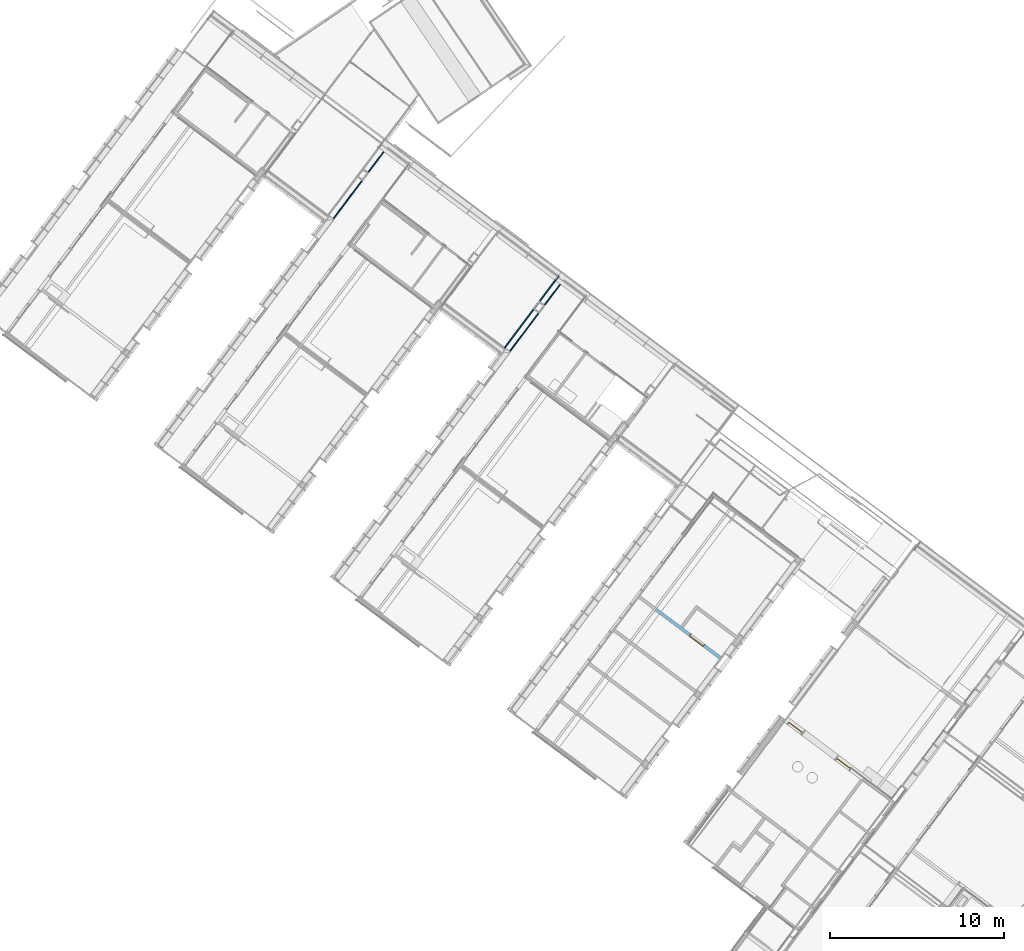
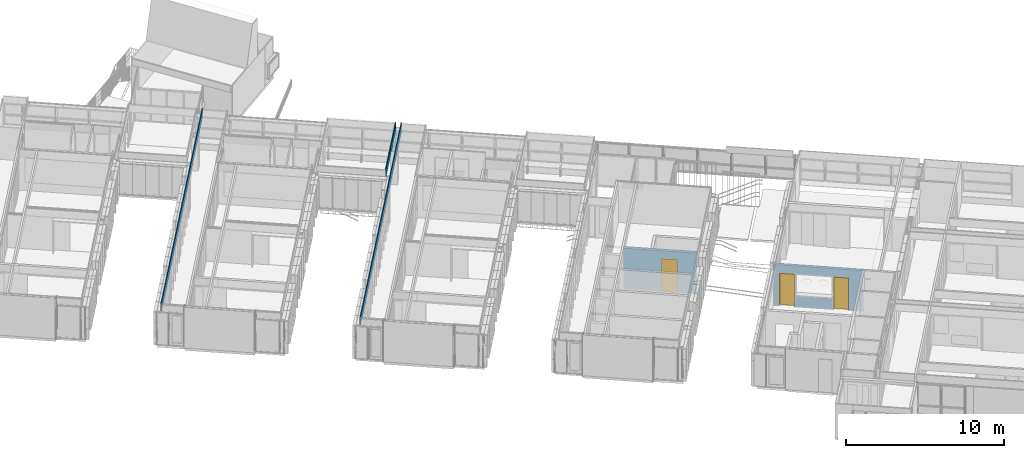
# One storey, part 137 of 243: 3 doors, 3 walls, 4 openings, plus 2 elements that do not belong to this part.
"""IFC2X3 building model written with IfcOpenShell, lengths in metres."""

from ifc_helpers import new_model, entity, si_unit, converted_unit, derived_unit, direction, frame, frame_2d, origin, origin_2d_with_axis, place, context, subcontext, project, spatial, rectangle, extrude, faceted_brep, source, transform, mapped, material, layer, layer_set, layer_usage, type_object, type_shapes, element, fill, save


model = new_model("IFC2X3")

# Units and contexts
model_context = context("Model", 3, precision=1e-05, world=origin(), true_north=direction((6.123031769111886e-17, 1.0)))
body_context = subcontext(model_context, "Body", "Model", "MODEL_VIEW")
ifc_project = project(units=[si_unit("LENGTHUNIT", "METRE"), si_unit("AREAUNIT", "SQUARE_METRE"), si_unit("VOLUMEUNIT", "CUBIC_METRE"), converted_unit("PLANEANGLEUNIT", "DEGREE", entity("IfcRatioMeasure", 0.017453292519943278), si_unit("PLANEANGLEUNIT", "RADIAN"), dimensions=[0, 0, 0, 0, 0, 0, 0]), si_unit("MASSUNIT", "GRAM", prefix="KILO"), derived_unit("MASSDENSITYUNIT", [(si_unit("MASSUNIT", "GRAM", prefix="KILO"), 1), (si_unit("LENGTHUNIT", "METRE"), -3)]), derived_unit("IONCONCENTRATIONUNIT", [(si_unit("MASSUNIT", "GRAM", prefix="KILO"), 1), (si_unit("LENGTHUNIT", "METRE"), -3)]), derived_unit("MOMENTOFINERTIAUNIT", [(si_unit("LENGTHUNIT", "METRE"), 4)]), si_unit("TIMEUNIT", "SECOND"), si_unit("FREQUENCYUNIT", "HERTZ"), si_unit("THERMODYNAMICTEMPERATUREUNIT", "DEGREE_CELSIUS"), derived_unit("THERMALTRANSMITTANCEUNIT", [(si_unit("MASSUNIT", "GRAM", prefix="KILO"), 1), (si_unit("THERMODYNAMICTEMPERATUREUNIT", "KELVIN"), -1), (si_unit("TIMEUNIT", "SECOND"), -3)]), derived_unit("THERMALCONDUCTANCEUNIT", [(si_unit("MASSUNIT", "GRAM", prefix="KILO"), 1), (si_unit("THERMODYNAMICTEMPERATUREUNIT", "KELVIN"), -1), (si_unit("TIMEUNIT", "SECOND"), -3), (si_unit("LENGTHUNIT", "METRE"), 1)]), derived_unit("VOLUMETRICFLOWRATEUNIT", [(si_unit("LENGTHUNIT", "METRE"), 3), (si_unit("TIMEUNIT", "SECOND"), -1)]), derived_unit("MASSFLOWRATEUNIT", [(si_unit("MASSUNIT", "GRAM", prefix="KILO"), 1), (si_unit("TIMEUNIT", "SECOND"), -1)]), derived_unit("ROTATIONALFREQUENCYUNIT", [(si_unit("TIMEUNIT", "SECOND"), -1)]), si_unit("ELECTRICCURRENTUNIT", "AMPERE"), si_unit("ELECTRICVOLTAGEUNIT", "VOLT"), si_unit("POWERUNIT", "WATT"), si_unit("FORCEUNIT", "NEWTON", prefix="KILO"), si_unit("ILLUMINANCEUNIT", "LUX"), si_unit("LUMINOUSFLUXUNIT", "LUMEN"), si_unit("LUMINOUSINTENSITYUNIT", "CANDELA"), derived_unit("USERDEFINED", [(si_unit("MASSUNIT", "GRAM", prefix="KILO"), -1), (si_unit("LENGTHUNIT", "METRE"), -2), (si_unit("TIMEUNIT", "SECOND"), 3), (si_unit("LUMINOUSFLUXUNIT", "LUMEN"), 1)]), derived_unit("USERDEFINED", [(si_unit("MASSUNIT", "GRAM", prefix="KILO"), 1), (si_unit("TIMEUNIT", "SECOND"), -3), (si_unit("LENGTHUNIT", "METRE"), 3), (si_unit("ELECTRICCURRENTUNIT", "AMPERE"), -2)]), derived_unit("SOUNDPOWERUNIT", [(si_unit("MASSUNIT", "GRAM", prefix="KILO"), 1), (si_unit("TIMEUNIT", "SECOND"), -3), (si_unit("LENGTHUNIT", "METRE"), 2)]), derived_unit("SOUNDPRESSUREUNIT", [(si_unit("MASSUNIT", "GRAM", prefix="KILO"), 1), (si_unit("LENGTHUNIT", "METRE"), -1), (si_unit("TIMEUNIT", "SECOND"), -2)]), derived_unit("LINEARVELOCITYUNIT", [(si_unit("LENGTHUNIT", "METRE"), 1), (si_unit("TIMEUNIT", "SECOND"), -1)]), si_unit("PRESSUREUNIT", "PASCAL"), derived_unit("USERDEFINED", [(si_unit("MASSUNIT", "GRAM", prefix="KILO"), 1), (si_unit("LENGTHUNIT", "METRE"), -2), (si_unit("TIMEUNIT", "SECOND"), -2)]), derived_unit("LINEARFORCEUNIT", [(si_unit("MASSUNIT", "GRAM", prefix="KILO"), 1), (si_unit("TIMEUNIT", "SECOND"), -2)]), derived_unit("PLANARFORCEUNIT", [(si_unit("MASSUNIT", "GRAM", prefix="KILO"), 1), (si_unit("LENGTHUNIT", "METRE"), -1), (si_unit("TIMEUNIT", "SECOND"), -2)]), derived_unit("SPECIFICHEATCAPACITYUNIT", [(si_unit("THERMODYNAMICTEMPERATUREUNIT", "KELVIN"), -1), (si_unit("LENGTHUNIT", "METRE"), 2), (si_unit("TIMEUNIT", "SECOND"), -2)]), derived_unit("HEATINGVALUEUNIT", [(si_unit("LENGTHUNIT", "METRE"), 2), (si_unit("TIMEUNIT", "SECOND"), -2)]), derived_unit("VAPORPERMEABILITYUNIT", [(si_unit("LENGTHUNIT", "METRE"), -1), (si_unit("TIMEUNIT", "SECOND"), 1)]), derived_unit("DYNAMICVISCOSITYUNIT", [(si_unit("MASSUNIT", "GRAM", prefix="KILO"), 1), (si_unit("TIMEUNIT", "SECOND"), -1), (si_unit("LENGTHUNIT", "METRE"), -1)]), derived_unit("THERMALEXPANSIONCOEFFICIENTUNIT", [(si_unit("THERMODYNAMICTEMPERATUREUNIT", "KELVIN"), -1)]), derived_unit("MODULUSOFELASTICITYUNIT", [(si_unit("MASSUNIT", "GRAM", prefix="KILO"), 1), (si_unit("LENGTHUNIT", "METRE"), -1), (si_unit("TIMEUNIT", "SECOND"), -2)]), derived_unit("ISOTHERMALMOISTURECAPACITYUNIT", [(si_unit("LENGTHUNIT", "METRE"), 3), (si_unit("MASSUNIT", "GRAM", prefix="KILO"), -1)]), derived_unit("MOISTUREDIFFUSIVITYUNIT", [(si_unit("TIMEUNIT", "SECOND"), -1), (si_unit("LENGTHUNIT", "METRE"), 2)])], contexts=[model_context])

# Site, building, storey
site_placement = place(None, frame((0.0, 0.0, 235.0), z_axis=(0.0, 0.0, 1.0), x_axis=(-0.7996477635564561, 0.6004693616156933, 0.0)))
site = spatial("IfcSite", under=ifc_project, at=site_placement, Name="Default", CompositionType="ELEMENT")
building_placement = place(site_placement, origin())
building = spatial("IfcBuilding", under=site, at=building_placement, CompositionType="ELEMENT")
storey_placement = place(building_placement, origin())
storey = spatial("IfcBuildingStorey", under=building, at=storey_placement, Name="P0- Escola", CompositionType="ELEMENT", Elevation=0.0)

# Walls
ifc_material_1 = material(Name="_Guix laminat- ENV")
ifc_layer_1 = layer(ifc_material_1, 0.02)
ifc_material_2 = material(Name="_Aillament")
ifc_layer_2 = layer(ifc_material_2, 0.045)
ifc_layer_set_1 = layer_set([ifc_layer_1, ifc_layer_2], Name="Muro básico:REV- Guix Laminat Extradossat- Aillament- T1- 6,5 cm")
wall_type_1 = type_object("IfcWallType", Name="Muro básico:REV- Guix Laminat Extradossat- Aillament- T1- 6,5 cm", PredefinedType="STANDARD", material=ifc_layer_set_1)
wall_1_placement = place(storey_placement, frame((49.012647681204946, -42.04019175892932, 2.5650000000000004), z_axis=(0.0, 0.0, 1.0), x_axis=(0.0, 1.0, 0.0)))
element("IfcWall", 1, at=wall_1_placement, inside=storey, type_object=wall_type_1, Name="Muro básico:REV- Guix Laminat Extradossat- Aillament- T1- 6,5 cm", ObjectType="Muro básico:REV- Guix Laminat Extradossat- Aillament- T1- 6,5 cm", context=body_context, shape_type="Brep", body=[
    faceted_brep([(21.686250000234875, -0.03250000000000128, 0.0), (21.686250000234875, -0.03250000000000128, 0.5850000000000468), (0.0, -0.03250000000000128, 0.5850000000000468), (0.0, -0.03250000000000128, 0.03499999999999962), (1.8349999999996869, -0.03250000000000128, 0.03499999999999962), (1.8349999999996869, -0.03250000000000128, 0.0), (2.41500362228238, -0.03250000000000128, 0.0), (2.41500362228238, -0.03250000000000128, 0.03499999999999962), (5.160001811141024, -0.03250000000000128, 0.03499999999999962), (5.160001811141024, -0.03250000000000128, 0.0), (21.686250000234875, 0.03250000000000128, 0.0), (0.0, 0.03250000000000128, 0.0), (0.0, 0.03250000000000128, 0.5850000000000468), (21.686250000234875, 0.03250000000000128, 0.5850000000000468), (5.160001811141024, 0.012499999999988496, 0.0), (2.41500362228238, 0.012499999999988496, 0.0), (1.8349999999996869, 0.01249999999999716, 0.0), (0.0, 0.01249999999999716, 0.0), (0.0, 0.01249999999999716, 0.03499999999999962), (1.8349999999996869, 0.01249999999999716, 0.03499999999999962), (5.160001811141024, 0.012499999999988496, 0.03499999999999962), (2.41500362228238, 0.01249999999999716, 0.03499999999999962)], [[[0, 1, 2, 3, 4, 5, 6, 7, 8, 9]], [[10, 11, 12, 13]], [[11, 10, 0, 9, 14, 15, 6, 5, 16, 17]], [[1, 0, 10, 13]], [[2, 1, 13, 12]], [[12, 11, 17, 18, 3, 2]], [[18, 19, 4, 3]], [[16, 19, 18, 17]], [[19, 16, 5, 4]], [[20, 21, 15, 14]], [[15, 21, 7, 6]], [[20, 14, 9, 8]], [[21, 20, 8, 7]]]),
])
wall_2_placement = place(storey_placement, frame((49.377639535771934, -42.04019175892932, 2.5650000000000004), z_axis=(0.0, 0.0, 1.0), x_axis=(0.0, 1.0, 0.0)))
element("IfcWall", 2, at=wall_2_placement, inside=storey, type_object=wall_type_1, Name="Muro básico:REV- Guix Laminat Extradossat- Aillament- T1- 6,5 cm", ObjectType="Muro básico:REV- Guix Laminat Extradossat- Aillament- T1- 6,5 cm", context=body_context, shape_type="Brep", body=[
    faceted_brep([(0.0, -0.03250000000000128, 0.0), (5.209999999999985, -0.03250000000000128, 0.0), (5.209999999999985, -0.03250000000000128, 0.5850000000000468), (0.0, -0.03250000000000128, 0.5850000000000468), (0.0, 0.03250000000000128, 0.5850000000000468), (5.209999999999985, 0.03250000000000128, 0.5850000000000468), (5.209999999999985, 0.03250000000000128, 0.5200000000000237), (5.209999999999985, 0.03250000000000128, 0.03500000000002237), (5.209999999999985, 0.03250000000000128, 0.0), (5.160001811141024, 0.03250000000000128, 0.0), (5.1600018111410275, 0.03250000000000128, 0.03499999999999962), (2.41500362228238, 0.03250000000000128, 0.03499999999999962), (2.41500362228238, 0.03250000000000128, 0.0), (1.8349999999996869, 0.03250000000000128, 0.0), (1.8349999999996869, 0.03250000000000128, 0.03499999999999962), (0.0, 0.03250000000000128, 0.03499999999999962), (0.0, -0.01249999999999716, 0.0), (1.8349999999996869, -0.01249999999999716, 0.0), (2.41500362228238, -0.01249999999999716, 0.0), (5.160001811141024, -0.012500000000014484, 0.0), (0.0, -0.01249999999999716, 0.03499999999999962), (1.8349999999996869, -0.01249999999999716, 0.03499999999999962), (2.41500362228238, -0.01249999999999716, 0.03499999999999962), (5.160001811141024, -0.012500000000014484, 0.03499999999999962)], [[[0, 1, 2, 3]], [[4, 5, 6, 7, 8, 9, 10, 11, 12, 13, 14, 15]], [[1, 0, 16, 17, 13, 12, 18, 19, 9, 8]], [[3, 2, 5, 4]], [[0, 3, 4, 15, 20, 16]], [[14, 21, 20, 15]], [[21, 17, 16, 20]], [[17, 21, 14, 13]], [[22, 18, 12, 11]], [[22, 23, 19, 18]], [[19, 23, 10, 9]], [[2, 1, 8, 7, 6, 5]], [[23, 22, 11, 10]]]),
])
wall_3_placement = place(storey_placement, frame((61.71264768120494, -42.04019175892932, 2.5650000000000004), z_axis=(0.0, 0.0, 1.0), x_axis=(0.0, 1.0, 0.0)))
element("IfcWall", 3, at=wall_3_placement, inside=storey, type_object=wall_type_1, Name="Muro básico:REV- Guix Laminat Extradossat- Aillament- T1- 6,5 cm", ObjectType="Muro básico:REV- Guix Laminat Extradossat- Aillament- T1- 6,5 cm", context=body_context, shape_type="Brep", body=[
    faceted_brep([(21.686250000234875, -0.03250000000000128, 0.0), (21.686250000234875, -0.03250000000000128, 0.5850000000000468), (0.0, -0.03250000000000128, 0.5850000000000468), (0.0, -0.03250000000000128, 0.03499999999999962), (1.8349999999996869, -0.03250000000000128, 0.03499999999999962), (1.8349999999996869, -0.03250000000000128, 0.0), (2.41500362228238, -0.03250000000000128, 0.0), (2.41500362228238, -0.03250000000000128, 0.03499999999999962), (5.160001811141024, -0.03250000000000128, 0.03499999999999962), (5.160001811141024, -0.03250000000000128, 0.0), (21.686250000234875, 0.03250000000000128, 0.0), (0.0, 0.03250000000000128, 0.0), (0.0, 0.03250000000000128, 0.5850000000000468), (21.686250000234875, 0.03250000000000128, 0.5850000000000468), (5.160001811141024, 0.012499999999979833, 0.0), (2.41500362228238, 0.01249999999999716, 0.0), (1.8349999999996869, 0.01249999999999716, 0.0), (0.0, 0.01249999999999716, 0.0), (0.0, 0.01249999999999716, 0.03499999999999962), (1.8349999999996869, 0.01249999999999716, 0.03499999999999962), (5.160001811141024, 0.012499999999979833, 0.03499999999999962), (2.41500362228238, 0.01249999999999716, 0.03499999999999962)], [[[0, 1, 2, 3, 4, 5, 6, 7, 8, 9]], [[10, 11, 12, 13]], [[11, 10, 0, 9, 14, 15, 6, 5, 16, 17]], [[1, 0, 10, 13]], [[2, 1, 13, 12]], [[12, 11, 17, 18, 3, 2]], [[18, 19, 4, 3]], [[16, 19, 18, 17]], [[19, 16, 5, 4]], [[20, 21, 15, 14]], [[15, 21, 7, 6]], [[20, 14, 9, 8]], [[21, 20, 8, 7]]]),
])

# Wall, opening, door
ifc_layer_3 = layer(ifc_material_1, 0.03)
ifc_material_3 = material(Name="_Genèric perfils, muntants, rastrells")
ifc_layer_4 = layer(ifc_material_3, 0.055)
ifc_layer_5 = layer(ifc_material_1, 0.015)
ifc_layer_6 = layer(ifc_material_3, 0.05)
ifc_layer_7 = layer(ifc_material_1, 0.03)
ifc_layer_set_2 = layer_set([ifc_layer_3, ifc_layer_4, ifc_layer_5, ifc_layer_6, ifc_layer_7], Name="Muro básico:ENV- Guix Laminat- 18 cm")
ifc_layer_usage_1 = layer_usage(ifc_layer_set_2, "AXIS2", "NEGATIVE", 0.09)
wall_type_2 = type_object("IfcWallType", Name="Muro básico:ENV- Guix Laminat- 18 cm", PredefinedType="STANDARD", material=ifc_layer_set_2)
wall_4_placement = place(storey_placement, frame((33.37314768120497, -30.04019175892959, 0.0), z_axis=(0.0, 0.0, 1.0), x_axis=(-1.0, 0.0, 0.0)))
wall_4 = element("IfcWallStandardCase", 4, at=wall_4_placement, inside=storey, type_object=wall_type_2, material=ifc_layer_usage_1, Name="Muro básico:ENV- Guix Laminat- 18 cm", ObjectType="Muro básico:ENV- Guix Laminat- 18 cm", context=body_context, shape_type="SweptSolid", body=[
    extrude(rectangle(XDim=4.662999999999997, YDim=0.1800000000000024, at=frame_2d((2.3314999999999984, 0.0), x_axis=(-1.0, 0.0))), origin(), (0.0, 0.0, 1.0), 3.150000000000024),
])
opening_1_placement = place(wall_4_placement, frame((3.4559999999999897, 0.09000000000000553, 0.0)))
opening_1 = element("IfcOpeningElement", 5, at=opening_1_placement, cuts=wall_4, Name="FUS- Porta Fusta- marc ocult- obertura exterior:FUS- Porta Fusta- marc ocult- 90x250,5 cm:1", ObjectType="Opening", context=body_context, shape_type="SweptSolid", body=[
    extrude(rectangle(XDim=2.544999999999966, YDim=1.0199999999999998, at=frame_2d((1.272499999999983, 0.5099999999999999), x_axis=(1.0, 0.0))), frame((0.0, 0.0, 0.0), z_axis=(0.0, -1.0, 0.0), x_axis=(0.0, 0.0, 1.0)), (0.0, 0.0, 1.0), 0.18),
])
ifc_material_4 = material(Name="_Fusta massisa- T1-  REV- PAV")
door_style_1 = type_object("IfcDoorStyle", Name="FUS- Porta Fusta- marc ocult- obertura exterior:FUS- Porta Fusta- marc ocult- 90x250,5 cm", ConstructionType="NOTDEFINED", OperationType="SINGLE_SWING_LEFT", ParameterTakesPrecedence=False, Sizeable=False, material=ifc_material_4)
shared_shape_1 = source(origin(), body_context, "Body", "Brep", [
    faceted_brep([(0.040000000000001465, -0.019999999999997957, 2.5049999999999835), (0.9799999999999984, -0.019999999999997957, 2.5049999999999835), (0.9800000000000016, -0.019999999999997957, 0.0), (1.0100000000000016, -0.019999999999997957, 0.0), (1.0100000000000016, -0.019999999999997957, 2.5449999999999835), (0.010000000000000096, -0.019999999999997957, 2.5449999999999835), (0.010000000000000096, -0.01999999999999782, 0.0), (0.03999999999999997, -0.01999999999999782, 0.0), (0.9800000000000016, 0.13000000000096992, 0.0), (0.9800000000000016, 0.11500000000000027, 2.5049999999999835), (0.9799999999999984, 0.11500000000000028, 2.5449999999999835), (0.9800000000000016, 0.13000000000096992, 2.5449999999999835), (1.0100000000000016, -0.009999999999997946, 0.0), (0.9599999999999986, 0.13000000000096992, 0.0), (0.9599999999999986, 0.1800000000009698, 0.0), (1.0200000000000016, 0.1800000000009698, 0.0), (1.0200000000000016, -0.009999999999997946, 0.0), (1.0100000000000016, -0.009999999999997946, 2.5449999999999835), (0.010000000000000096, -0.009999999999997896, 2.5449999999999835), (0.010000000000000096, -0.009999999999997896, 0.0), (0.0, -0.009999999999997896, 0.0), (0.0, 0.18000000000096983, 0.0), (0.06000000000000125, 0.18000000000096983, 0.0), (0.06000000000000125, 0.13000000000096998, 0.0), (0.03999999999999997, 0.13000000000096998, 0.0), (0.03999999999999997, 0.13000000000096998, 2.5449999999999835), (0.03999999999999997, 0.11500000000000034, 2.5449999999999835), (0.03999999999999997, 0.11500000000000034, 2.5049999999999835), (0.9599999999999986, 0.1800000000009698, 2.5049999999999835), (0.05999999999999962, 0.1800000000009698, 2.5049999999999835), (0.0, 0.18000000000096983, 2.5449999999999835), (1.0200000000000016, 0.1800000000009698, 2.5449999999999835), (0.06000000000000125, 0.13000000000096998, 2.5049999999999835), (0.0, -0.009999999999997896, 2.5449999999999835), (1.0200000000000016, -0.009999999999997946, 2.5449999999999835), (0.9599999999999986, 0.1300000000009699, 2.5049999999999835), (0.9599999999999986, 0.13000000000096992, 2.5449999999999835), (0.06000000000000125, 0.13000000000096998, 2.5449999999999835), (0.05999999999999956, 0.11500000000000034, 2.5449999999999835), (0.9599999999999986, 0.11500000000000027, 2.5449999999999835), (0.9599999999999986, 0.11500000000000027, 2.5049999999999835), (0.05999999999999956, 0.11500000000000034, 2.5049999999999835)], [[[0, 1, 2, 3, 4, 5, 6, 7]], [[8, 2, 1, 9, 10, 11]], [[12, 3, 2, 8, 13, 14, 15, 16]], [[17, 4, 3, 12]], [[5, 18, 19, 6]], [[19, 20, 21, 22, 23, 24, 7, 6]], [[7, 24, 25, 26, 27, 0]], [[28, 29, 22, 21, 30, 31, 15, 14]], [[23, 22, 29, 32]], [[33, 30, 21, 20]], [[31, 34, 16, 15]], [[14, 13, 35, 28]], [[11, 36, 35, 13, 8]], [[34, 17, 12, 16]], [[18, 33, 20, 19]], [[37, 25, 24, 23, 32]], [[30, 33, 18, 5, 4, 17, 34, 31], [38, 26, 25, 37], [10, 39, 36, 11]], [[29, 28, 35, 40, 9, 1, 0, 27, 41, 32]], [[26, 38, 41, 27]], [[41, 38, 37, 32]], [[39, 10, 9, 40]], [[39, 40, 35, 36]]]),
    faceted_brep([(0.9599999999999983, 0.17999999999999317, 0.0), (0.9599999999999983, 0.12999999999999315, 0.0), (0.05999999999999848, 0.12999999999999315, 0.0), (0.05999999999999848, 0.17999999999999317, 0.0), (0.9599999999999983, 0.17999999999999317, 2.5050000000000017), (0.9599999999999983, 0.12999999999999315, 2.5050000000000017), (0.05999999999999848, 0.12999999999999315, 2.5050000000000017), (0.05999999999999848, 0.17999999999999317, 2.5050000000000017)], [[[0, 1, 2, 3]], [[4, 5, 1, 0]], [[5, 6, 2, 1]], [[6, 7, 3, 2]], [[7, 4, 0, 3]], [[4, 7, 6, 5]]]),
])
type_shapes(door_style_1, [shared_shape_1])
door_1_placement = place(opening_1_placement, frame((0.0, 0.0, 0.0), z_axis=(0.0, 0.0, 1.0), x_axis=(-1.0, 0.0, 0.0)))
door_1 = element("IfcDoor", 6, at=door_1_placement, inside=storey, type_object=door_style_1, material=ifc_material_4, Name="FUS- Porta Fusta- marc ocult- obertura exterior:FUS- Porta Fusta- marc ocult- 90x250,5 cm", ObjectType="FUS- Porta Fusta- marc ocult- obertura exterior:FUS- Porta Fusta- marc ocult- 90x250,5 cm", OverallHeight=2.544999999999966, OverallWidth=1.020000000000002, context=body_context, shape_type="MappedRepresentation", body=[
    mapped(shared_shape_1, transform((0.0, 0.0, 0.0), scale=1.0)),
])
fill(opening_1, door_1)

# Wall, openings, doors
ifc_material_5 = material(Name="_Enrajolat Gresite- REV- PAV")
ifc_layer_8 = layer(ifc_material_5, 0.01)
ifc_material_6 = material(Name="_Morter Base - REV")
ifc_layer_9 = layer(ifc_material_6, 0.015)
ifc_material_7 = material(Name="_Ceràmica- ENV")
ifc_layer_10 = layer(ifc_material_7, 0.14)
ifc_layer_set_3 = layer_set([ifc_layer_8, ifc_layer_9, ifc_layer_10], Name="Muro básico:ENV- REV- Ceràmic- 14 cm + peces pasta vitrea")
ifc_layer_usage_2 = layer_usage(ifc_layer_set_3, "AXIS2", "NEGATIVE", 0.08249999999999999)
wall_type_3 = type_object("IfcWallType", Name="Muro básico:ENV- REV- Ceràmic- 14 cm + peces pasta vitrea", PredefinedType="STANDARD", material=ifc_layer_set_3)
wall_5_placement = place(storey_placement, frame((18.012647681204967, -29.38269175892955, 0.0)))
wall_5 = element("IfcWallStandardCase", 7, at=wall_5_placement, inside=storey, type_object=wall_type_3, material=ifc_layer_usage_2, Name="Muro básico:ENV- REV- Ceràmic- 14 cm + peces pasta vitrea", ObjectType="Muro básico:ENV- REV- Ceràmic- 14 cm + peces pasta vitrea", context=body_context, shape_type="SweptSolid", body=[
    extrude(rectangle(XDim=5.7175000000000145, YDim=0.16500000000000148, at=frame_2d((2.8587500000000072, -2.789435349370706e-15), x_axis=(1.0, 0.0))), origin(), (0.0, 0.0, 1.0), 3.150000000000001),
])
opening_2_placement = place(wall_5_placement, frame((0.8845000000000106, -0.08250000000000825, 0.0)))
opening_2 = element("IfcOpeningElement", 8, at=opening_2_placement, cuts=wall_5, Name="FUS- Porta Fusta- marc ocult- obertura interior:FUS- Porta Fusta- marc ocult- 90x250,5 cm:1", ObjectType="Opening", context=body_context, shape_type="SweptSolid", body=[
    extrude(rectangle(XDim=2.544999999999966, YDim=1.0199999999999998, at=frame_2d((1.272499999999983, 0.5100000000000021), x_axis=(1.0, 0.0))), frame((0.0, 0.0, 0.0), z_axis=(0.0, 1.0, 0.0), x_axis=(0.0, 0.0, 1.0)), (0.0, 0.0, 1.0), 0.16499999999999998),
])
opening_3_placement = place(wall_5_placement, frame((4.350000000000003, -0.08250000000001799, 0.0)))
opening_3 = element("IfcOpeningElement", 9, at=opening_3_placement, cuts=wall_5, Name="FUS- Porta Fusta- marc ocult- obertura interior:FUS- Porta Fusta- marc ocult- 90x250,5 cm:1", ObjectType="Opening", context=body_context, shape_type="SweptSolid", body=[
    extrude(rectangle(XDim=2.544999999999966, YDim=1.0199999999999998, at=frame_2d((1.272499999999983, 0.5099999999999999), x_axis=(1.0, 0.0))), frame((0.0, 0.0, 0.0), z_axis=(0.0, 1.0, 0.0), x_axis=(0.0, 0.0, 1.0)), (0.0, 0.0, 1.0), 0.16499999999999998),
])
opening_4_placement = place(wall_5_placement, frame((1.9045000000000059, -1.4415000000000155, 0.8)))
element("IfcOpeningElement", 10, at=opening_4_placement, cuts=wall_5, Name="Muro básico:ENV- REV- Ceràmic- 14 cm + peces pasta vitrea", ObjectType="Opening", context=body_context, shape_type="SweptSolid", body=[
    extrude(rectangle(XDim=1.7449999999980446, YDim=2.44549999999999, at=origin_2d_with_axis()), frame((1.222749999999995, 0.0, 0.8724999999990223), z_axis=(0.0, 1.0, 0.0), x_axis=(0.0, 0.0, 1.0)), (0.0, 0.0, 1.0), 3.048),
])
door_style_2 = type_object("IfcDoorStyle", Name="FUS- Porta Fusta- marc ocult- obertura interior:FUS- Porta Fusta- marc ocult- 90x250,5 cm", ConstructionType="NOTDEFINED", OperationType="NOTDEFINED", ParameterTakesPrecedence=False, Sizeable=False, material=ifc_material_4)
shared_shape_2 = source(origin(), body_context, "Body", "Brep", [
    faceted_brep([(1.0100000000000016, 0.0, 0.0), (1.0100000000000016, -0.009999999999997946, 0.0), (0.9800000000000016, -0.009999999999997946, 0.0), (0.9800000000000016, 0.11500000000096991, 0.0), (0.9599999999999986, 0.11500000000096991, 0.0), (0.9599999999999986, 0.1650000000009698, 0.0), (1.0200000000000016, 0.1650000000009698, 0.0), (1.0200000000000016, 0.0, 0.0), (1.0100000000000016, 0.0, 2.5449999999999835), (1.0100000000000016, -0.009999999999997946, 2.5449999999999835), (0.9800000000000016, -0.009999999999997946, 2.5049999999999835), (0.9800000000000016, 0.10750000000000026, 2.5049999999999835), (0.9799999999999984, 0.10750000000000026, 2.5449999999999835), (0.9800000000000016, 0.11500000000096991, 2.5449999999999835), (0.9599999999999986, 0.11500000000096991, 2.5449999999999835), (0.9599999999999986, 0.11500000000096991, 2.5049999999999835), (0.9599999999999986, 0.16500000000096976, 2.5049999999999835), (1.0200000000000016, 0.1650000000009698, 2.5449999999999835), (1.0200000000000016, 0.0, 2.5449999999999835), (0.010000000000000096, 0.0, 0.0), (0.0, 0.0, 0.0), (0.0, 0.16500000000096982, 0.0), (0.06000000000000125, 0.16500000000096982, 0.0), (0.06000000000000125, 0.11500000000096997, 0.0), (0.03999999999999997, 0.11500000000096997, 0.0), (0.03999999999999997, -0.009999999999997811, 0.0), (0.010000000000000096, -0.009999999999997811, 0.0), (0.010000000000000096, 0.0, 2.5449999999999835), (0.0, 0.0, 2.5449999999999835), (0.0, 0.16500000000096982, 2.5449999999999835), (0.06000000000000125, 0.16500000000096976, 2.5049999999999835), (0.06000000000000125, 0.11500000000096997, 2.5049999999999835), (0.06000000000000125, 0.11500000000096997, 2.5449999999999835), (0.03999999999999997, 0.11500000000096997, 2.5449999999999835), (0.03999999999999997, 0.10750000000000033, 2.5449999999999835), (0.03999999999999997, 0.10750000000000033, 2.5049999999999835), (0.03999999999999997, -0.009999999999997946, 2.5049999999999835), (0.010000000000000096, -0.009999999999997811, 2.5449999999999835), (0.05999999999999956, 0.10750000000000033, 2.5449999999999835), (0.9599999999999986, 0.10750000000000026, 2.5449999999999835), (0.9599999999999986, 0.10750000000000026, 2.5049999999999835), (0.05999999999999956, 0.10750000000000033, 2.5049999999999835)], [[[0, 1, 2, 3, 4, 5, 6, 7]], [[8, 9, 1, 0]], [[3, 2, 10, 11, 12, 13]], [[13, 14, 15, 4, 3]], [[5, 4, 15, 16]], [[17, 18, 7, 6]], [[18, 8, 0, 7]], [[19, 20, 21, 22, 23, 24, 25, 26]], [[27, 28, 20, 19]], [[28, 29, 21, 20]], [[23, 22, 30, 31]], [[32, 33, 24, 23, 31]], [[25, 24, 33, 34, 35, 36]], [[37, 27, 19, 26]], [[29, 28, 27, 37, 9, 8, 18, 17], [38, 34, 33, 32], [12, 39, 14, 13]], [[30, 16, 15, 40, 11, 10, 36, 35, 41, 31]], [[34, 38, 41, 35]], [[36, 10, 2, 1, 9, 37, 26, 25]], [[39, 12, 11, 40]], [[39, 40, 15, 14]], [[16, 30, 22, 21, 29, 17, 6, 5]], [[41, 38, 32, 31]]]),
    faceted_brep([(0.9599999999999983, 0.16500000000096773, 0.0), (0.9599999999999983, 0.11500000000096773, 0.0), (0.05999999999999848, 0.11500000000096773, 0.0), (0.05999999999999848, 0.16500000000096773, 0.0), (0.9599999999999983, 0.16500000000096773, 2.5050000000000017), (0.9599999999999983, 0.11500000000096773, 2.5050000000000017), (0.05999999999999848, 0.11500000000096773, 2.5050000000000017), (0.05999999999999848, 0.16500000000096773, 2.5050000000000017)], [[[0, 1, 2, 3]], [[4, 5, 1, 0]], [[5, 6, 2, 1]], [[6, 7, 3, 2]], [[7, 4, 0, 3]], [[4, 7, 6, 5]]]),
])
type_shapes(door_style_2, [shared_shape_2])
door_2_placement = place(opening_2_placement, frame((1.0200000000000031, 0.16499999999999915, 0.0), z_axis=(0.0, 0.0, 1.0), x_axis=(-1.0, 0.0, 0.0)))
door_2 = element("IfcDoor", 11, at=door_2_placement, inside=storey, type_object=door_style_2, material=ifc_material_4, Name="FUS- Porta Fusta- marc ocult- obertura interior:FUS- Porta Fusta- marc ocult- 90x250,5 cm", ObjectType="FUS- Porta Fusta- marc ocult- obertura interior:FUS- Porta Fusta- marc ocult- 90x250,5 cm", OverallHeight=2.544999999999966, OverallWidth=1.020000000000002, context=body_context, shape_type="MappedRepresentation", body=[
    mapped(shared_shape_2, transform((0.0, 0.0, 0.0), scale=1.0)),
])
fill(opening_2, door_2)
door_style_3 = type_object("IfcDoorStyle", Name="FUS- Porta Fusta- marc ocult- obertura interior:FUS- Porta Fusta- marc ocult- 90x250,5 cm", ConstructionType="NOTDEFINED", OperationType="NOTDEFINED", ParameterTakesPrecedence=False, Sizeable=False, material=ifc_material_4)
shared_shape_3 = source(origin(), body_context, "Body", "Brep", [
    faceted_brep([(-0.06999999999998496, 0.0, 0.0), (-0.07999999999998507, 0.0, 0.0), (-0.07999999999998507, 0.1650000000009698, 0.0), (-0.019999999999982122, 0.1650000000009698, 0.0), (-0.019999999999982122, 0.11500000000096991, 0.0), (-0.03999999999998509, 0.11500000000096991, 0.0), (-0.03999999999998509, -0.009999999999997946, 0.0), (-0.06999999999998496, -0.009999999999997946, 0.0), (-0.06999999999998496, 0.0, 2.5449999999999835), (-0.0699999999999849, -0.009999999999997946, 2.5449999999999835), (-0.03999999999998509, 0.11500000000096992, 2.5449999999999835), (-0.03999999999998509, 0.10750000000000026, 2.5449999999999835), (-0.03999999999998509, 0.10750000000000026, 2.5049999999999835), (-0.039999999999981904, -0.009999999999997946, 2.5049999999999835), (-0.019999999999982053, 0.11500000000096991, 2.5049999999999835), (-0.01999999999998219, 0.11500000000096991, 2.5449999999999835), (-0.019999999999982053, 0.16500000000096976, 2.5049999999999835), (-0.07999999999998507, 0.16500000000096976, 2.5449999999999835), (-0.07999999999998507, 0.0, 2.5449999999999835), (0.9300000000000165, 0.0, 0.0), (0.9300000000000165, -0.009999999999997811, 0.0), (0.9000000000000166, -0.009999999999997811, 0.0), (0.9000000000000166, 0.11500000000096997, 0.0), (0.8800000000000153, 0.11500000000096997, 0.0), (0.8800000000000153, 0.16500000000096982, 0.0), (0.9400000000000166, 0.16500000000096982, 0.0), (0.9400000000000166, 0.0, 0.0), (0.9300000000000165, 0.0, 2.5449999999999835), (0.9400000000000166, 0.0, 2.5449999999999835), (0.9400000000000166, 0.16500000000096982, 2.5449999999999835), (0.8800000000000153, 0.11500000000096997, 2.5049999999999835), (0.8800000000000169, 0.16500000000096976, 2.5049999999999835), (0.8800000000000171, 0.11500000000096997, 2.5449999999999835), (0.9000000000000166, 0.11500000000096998, 2.5449999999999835), (0.9000000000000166, -0.009999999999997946, 2.5049999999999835), (0.9000000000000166, 0.10750000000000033, 2.5049999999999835), (0.900000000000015, 0.10750000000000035, 2.5449999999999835), (0.9300000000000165, -0.009999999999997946, 2.5449999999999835), (0.8800000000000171, 0.10750000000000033, 2.5449999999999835), (-0.019999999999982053, 0.10750000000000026, 2.5449999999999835), (0.8800000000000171, 0.10750000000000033, 2.5049999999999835), (-0.019999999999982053, 0.10750000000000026, 2.5049999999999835)], [[[0, 1, 2, 3, 4, 5, 6, 7]], [[8, 0, 7, 9]], [[5, 10, 11, 12, 13, 6]], [[10, 5, 4, 14, 15]], [[3, 16, 14, 4]], [[17, 2, 1, 18]], [[18, 1, 0, 8]], [[19, 20, 21, 22, 23, 24, 25, 26]], [[27, 19, 26, 28]], [[28, 26, 25, 29]], [[23, 30, 31, 24]], [[32, 30, 23, 22, 33]], [[21, 34, 35, 36, 33, 22]], [[37, 20, 19, 27]], [[29, 17, 18, 8, 9, 37, 27, 28], [38, 32, 33, 36], [11, 10, 15, 39]], [[31, 30, 40, 35, 34, 13, 12, 41, 14, 16]], [[36, 35, 40, 38]], [[34, 21, 20, 37, 9, 7, 6, 13]], [[39, 41, 12, 11]], [[39, 15, 14, 41]], [[16, 3, 2, 17, 29, 25, 24, 31]], [[40, 30, 32, 38]]]),
    faceted_brep([(-0.019999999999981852, 0.16500000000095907, 0.0), (0.8800000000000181, 0.16500000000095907, 0.0), (0.8800000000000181, 0.11500000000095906, 0.0), (-0.019999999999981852, 0.11500000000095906, 0.0), (-0.019999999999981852, 0.16500000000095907, 2.5050000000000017), (-0.019999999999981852, 0.11500000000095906, 2.5050000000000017), (0.8800000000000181, 0.11500000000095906, 2.5050000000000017), (0.8800000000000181, 0.16500000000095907, 2.5050000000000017)], [[[0, 1, 2, 3]], [[4, 0, 3, 5]], [[5, 3, 2, 6]], [[6, 2, 1, 7]], [[7, 1, 0, 4]], [[4, 5, 6, 7]]]),
])
type_shapes(door_style_3, [shared_shape_3])
door_3_placement = place(opening_3_placement, frame((0.940000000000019, 0.1650000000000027, 0.0), z_axis=(0.0, 0.0, 1.0), x_axis=(-1.0, 0.0, 0.0)))
door_3 = element("IfcDoor", 12, at=door_3_placement, inside=storey, type_object=door_style_3, material=ifc_material_4, Name="FUS- Porta Fusta- marc ocult- obertura interior:FUS- Porta Fusta- marc ocult- 90x250,5 cm", ObjectType="FUS- Porta Fusta- marc ocult- obertura interior:FUS- Porta Fusta- marc ocult- 90x250,5 cm", OverallHeight=2.544999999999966, OverallWidth=1.020000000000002, context=body_context, shape_type="MappedRepresentation", body=[
    mapped(shared_shape_3, transform((0.0, 0.0, 0.0), scale=1.0)),
])
fill(opening_3, door_3)

save(model, "model.ifc")
